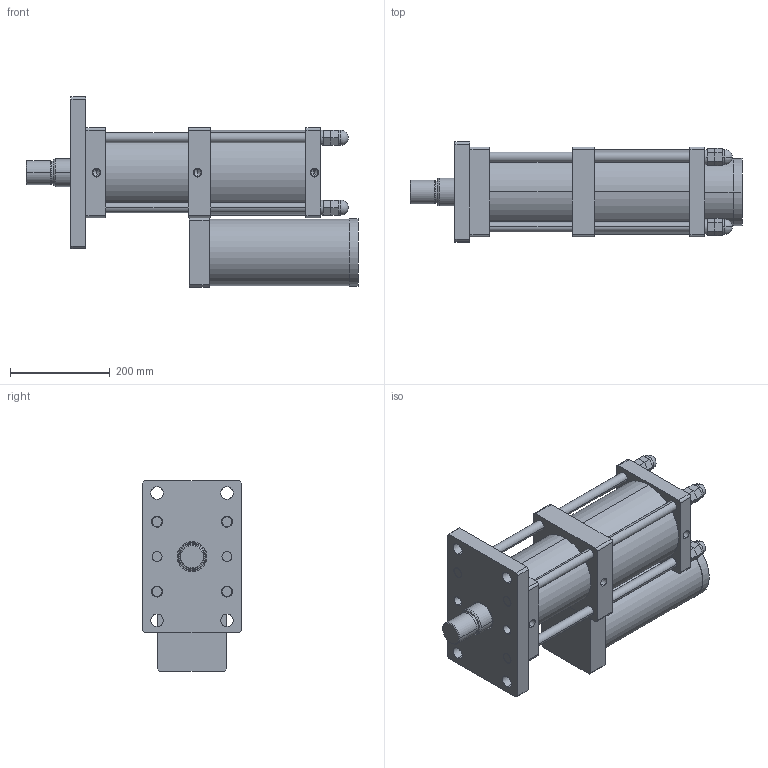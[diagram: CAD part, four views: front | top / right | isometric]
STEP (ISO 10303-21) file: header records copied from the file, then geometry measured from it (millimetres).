
FILE_DESCRIPTION (( 'STEP AP203' ), '1' );
FILE_NAME ('MPT-125-100-10-15T.STEP', '2016-03-12T00:57:27', ( 'WIN' ), ( '' ), 'SwSTEP 2.0', 'SolidWorks 2014', '' );
FILE_SCHEMA (( 'CONFIG_CONTROL_DESIGN' ));
Length unit declared in the file: millimetre
Products named in the file (1): MPT-125-100-10-15T
Bounding box: 665.5 x 200 x 382.5 mm (x, y, z)
Volume: 14676717.2 mm3; surface area: 1148245.4 mm2
Topology: 17 solids, 17 shells, 320 faces, 732 edges, 458 vertices
Faces by surface type: plane 154, cylinder 124, cone 30, sphere 8, torus 4
Entity records: 8963 total; most frequent: DIRECTION 1652, CARTESIAN_POINT 1479, ORIENTED_EDGE 1416, EDGE_CURVE 708, AXIS2_PLACEMENT_3D 623, VERTEX_POINT 450, LINE 406, VECTOR 406
